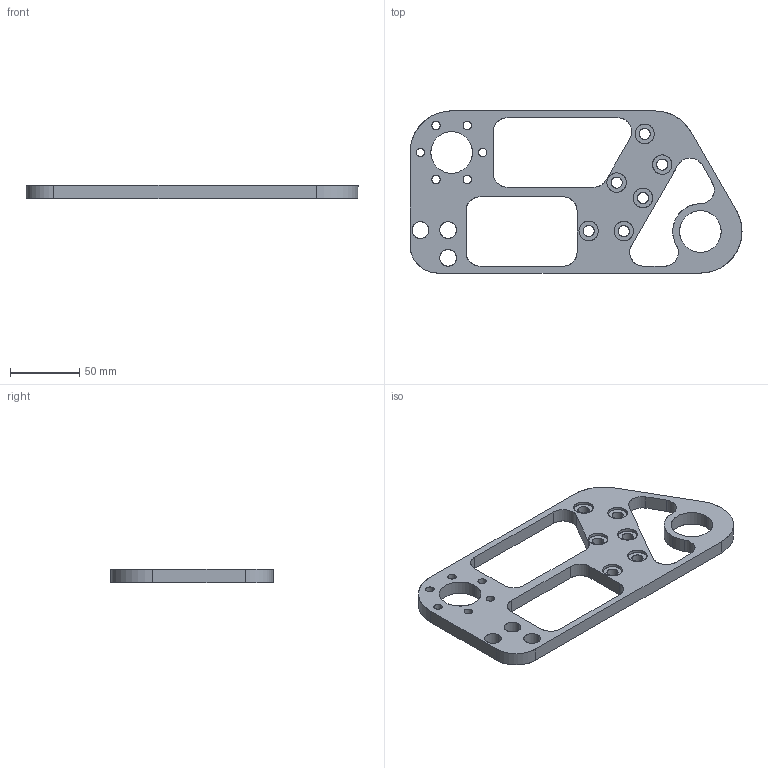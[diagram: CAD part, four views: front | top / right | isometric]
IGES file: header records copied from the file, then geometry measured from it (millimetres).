
Start section: SolidWorks IGES file using analytic representation for surfaces
Global section: file name: E:\Nouveau dossier\tarek\mécaniquee\Solide\TP0 FAO\EX16.IGS; native system: SolidWorks 2013; preprocessor: SolidWorks 2013; author: LENOVO; date: 181002.174641; units: millimetre
Bounding box: 239.5 x 117 x 10 mm (x, y, z)
Surface area: 45448.2 mm2 (no closed solid volume)
Topology: 0 solids, 0 shells, 88 faces, 2206 edges, 2206 vertices
Faces by surface type: revolution 65, bspline 23
